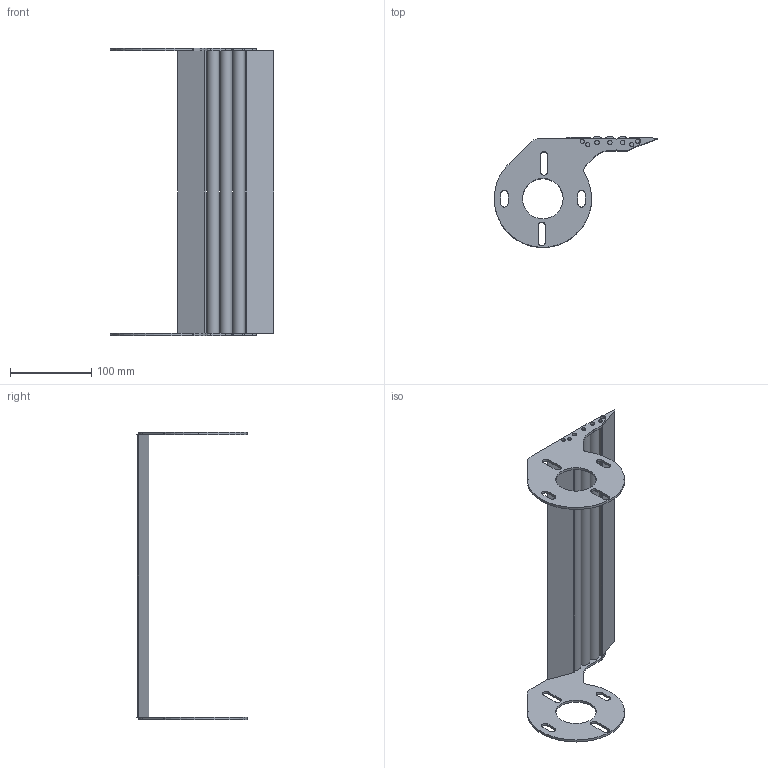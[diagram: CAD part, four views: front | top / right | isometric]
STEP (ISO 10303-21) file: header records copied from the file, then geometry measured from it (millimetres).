
FILE_DESCRIPTION (( 'STEP AP214' ), '1' );
FILE_NAME ('F2 1200 TG2M.step', '2017-04-05T06:47:54', ( '' ), ( '' ), 'SwSTEP 2.0', 'SolidWorks 2015', '' );
FILE_SCHEMA (( 'AUTOMOTIVE_DESIGN' ));
Length unit declared in the file: millimetre
Products named in the file (1): F2 1200 TG2M
Bounding box: 201.6 x 136.54 x 354 mm (x, y, z)
Volume: 442199.3 mm3; surface area: 158984.9 mm2
Topology: 1 solids, 1 shells, 157 faces, 427 edges, 278 vertices
Faces by surface type: plane 84, cylinder 73
Entity records: 6598 total; most frequent: DIRECTION 901, CARTESIAN_POINT 863, ORIENTED_EDGE 854, EDGE_CURVE 427, AXIS2_PLACEMENT_3D 316, VERTEX_POINT 278, LINE 269, VECTOR 269
